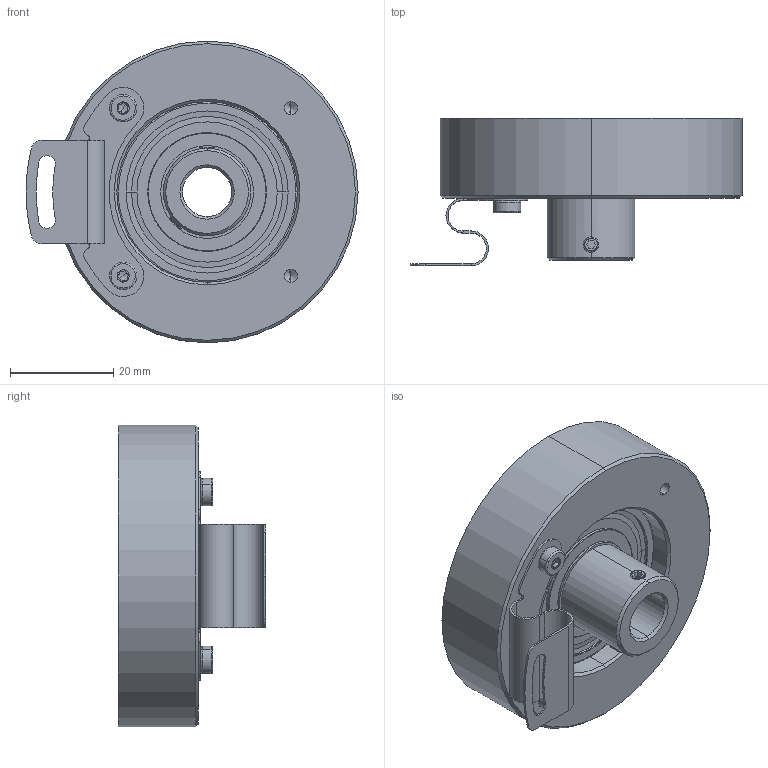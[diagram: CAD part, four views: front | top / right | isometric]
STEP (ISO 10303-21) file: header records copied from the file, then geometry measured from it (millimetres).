
FILE_DESCRIPTION (( 'STEP AP214' ), '1' );
FILE_NAME ('drawing ucd-xst0-q5b-n.STEP', '2017-05-24T09:22:56', ( '' ), ( '' ), 'SwSTEP 2.0', 'SolidWorks 2017', '' );
FILE_SCHEMA (( 'AUTOMOTIVE_DESIGN' ));
Length unit declared in the file: millimetre
Products named in the file (1): drawing ucd-xst0-q5b-n
Bounding box: 64.35 x 28.6 x 58.5 mm (x, y, z)
Volume: 37181.3 mm3; surface area: 20992.7 mm2
Topology: 20 solids, 20 shells, 470 faces, 1073 edges, 602 vertices
Faces by surface type: cone 184, cylinder 149, plane 67, bspline 50, torus 20
Entity records: 19563 total; most frequent: CARTESIAN_POINT 3856, DIRECTION 2335, ORIENTED_EDGE 2034, EDGE_CURVE 1017, AXIS2_PLACEMENT_3D 973, VERTEX_POINT 602, CIRCLE 552, EDGE_LOOP 505
